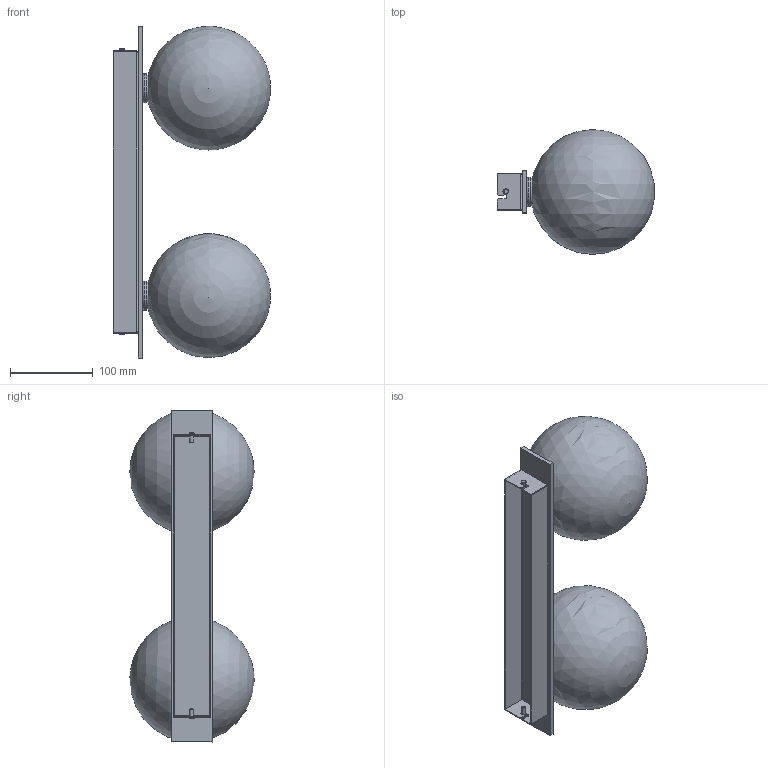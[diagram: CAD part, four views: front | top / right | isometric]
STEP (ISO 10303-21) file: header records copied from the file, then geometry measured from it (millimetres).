
FILE_DESCRIPTION(/* description */ (''),/* implementation_level */ '2;1');
FILE_NAME(/* name */ 'T:\B072 Oslo Dual Wall Sconce\Pliki bryłowe handlowe\B072 Oslo Dual.stp',/* time_stamp */ '2022-01-19T12:48:02+01:00',/* author */ ('Mariusz Awariusz'),/* organization */ (''),/* preprocessor_version */ 'ST-DEVELOPER v18.1',/* originating_system */ 'Autodesk Inventor 2022',/* authorisation */ '');
FILE_SCHEMA (('AUTOMOTIVE_DESIGN { 1 0 10303 214 3 1 1 }'));
Length unit declared in the file: millimetre
Products named in the file (1): Oslo Dual Wall Sconce CE V1_na potrzeby plików 3D_2_jako część
Bounding box: 189.36 x 150 x 400.11 mm (x, y, z)
Volume: 421347.4 mm3; surface area: 369030.9 mm2
Topology: 1 solids, 5 shells, 132 faces, 308 edges, 192 vertices
Faces by surface type: plane 61, cylinder 37, cone 10, sphere 8, torus 8, bspline 8
Full cylindrical faces by diameter (mm): 3.4 x6, 4 x2, 6 x2, 11.917 x2, 25 x2, 33 x2, 35 x2
Entity records: 4225 total; most frequent: CARTESIAN_POINT 1209, DIRECTION 622, ORIENTED_EDGE 600, EDGE_CURVE 300, AXIS2_PLACEMENT_3D 229, VERTEX_POINT 192, LINE 164, VECTOR 164
